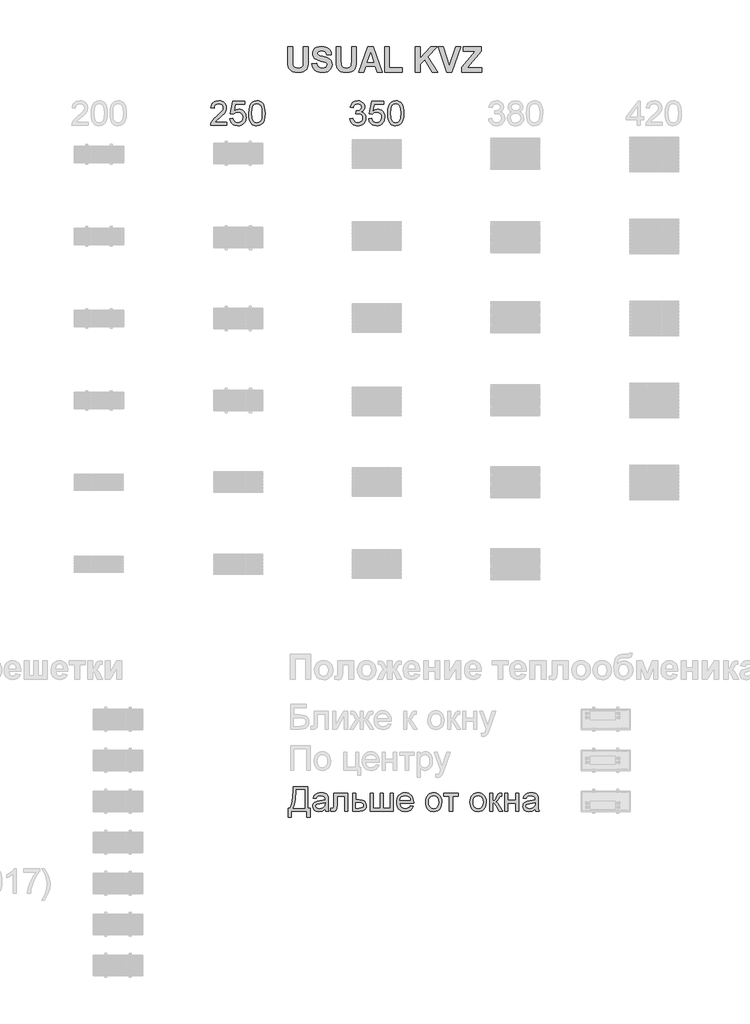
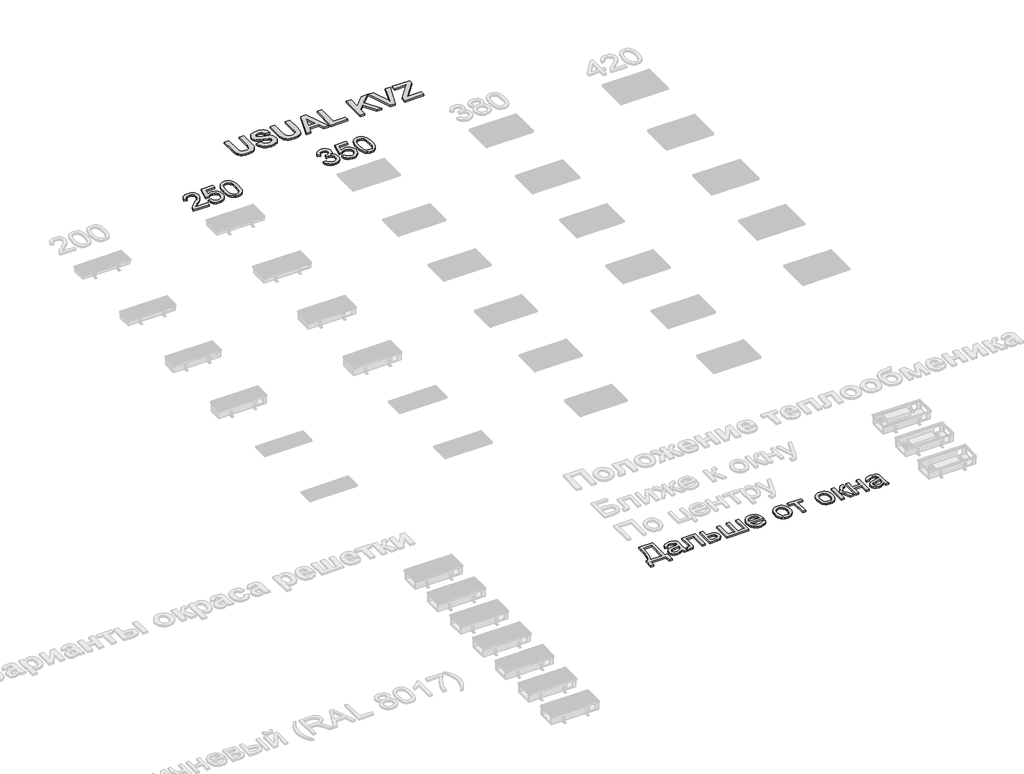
# One storey, part 10 of 12: 4 proxies.
"""IFC4 building model written with IfcOpenShell, lengths in millimetres."""

from ifc_helpers import new_model, si_unit, origin, origin_with_axes, place, context, project, spatial, polyline, outline, extrude, element, save

model = new_model("IFC4")

# Units and contexts
model_context = context("Model", 3, world=origin())
ifc_project = project(units=[si_unit("LENGTHUNIT", "METRE", prefix="MILLI")], contexts=[model_context])

# Site, building, storey
site = spatial("IfcSite", under=ifc_project)
building = spatial("IfcBuilding", under=site)
storey = spatial("IfcBuildingStorey", under=building, Name="Уровень 1", Elevation=0.0)

# Proxies
placement = place(None, origin())
element("IfcBuildingElementProxy", 1, Name="300", ObjectType="300", at=placement, inside=storey, context=model_context, shape_type="SweptSolid", body=[
    extrude(outline(polyline([(14630.1009653, -13613.7438159), (14809.0387678, -13613.7438159), (14809.0387678, -13877.4416301), (14837.292105, -13877.4416301), (14837.292105, -13985.7460895), (14799.6209887, -13985.7460895), (14799.6209887, -13915.1127464), (14606.5565176, -13915.1127464), (14606.5565176, -13985.7460895), (14568.8854013, -13985.7460895), (14568.8854013, -13877.4416301), (14592.429849, -13877.4416301), (14608.9109624, -13843.2699912), (14620.6831862, -13795.2016101), (14627.7465205, -13733.2364865), (14630.1009653, -13657.3746206), (14630.1009653, -13613.7438159)]), holes=[polyline([(14771.3676514, -13651.4149322), (14667.7720816, -13651.4149322), (14667.7720816, -13666.5716704), (14660.1201361, -13769.7993583), (14648.7893707, -13829.4514238), (14630.1009653, -13877.4416301), (14771.3676514, -13877.4416301), (14771.3676514, -13651.4149322)])]), origin_with_axes(), (0.0, 0.0, 1.0), 20.0),
    extrude(outline(polyline([(15020.938797, -13886.8594092), (15002.9401704, -13902.2920588), (14984.4081149, -13912.3904196), (14964.9195662, -13917.9638318), (14944.05146, -13919.8216359), (14912.5699582, -13915.3518697), (14889.3474073, -13901.942571), (14875.0276006, -13881.5803025), (14870.2543317, -13856.2516272), (14872.0569535, -13840.6350365), (14877.4648189, -13826.4531855), (14885.8065431, -13814.3130797), (14896.4107416, -13804.8217242), (14922.7878807, -13792.4608892), (14955.3822254, -13786.7955065), (14993.8994703, -13780.8358181), (15020.7180678, -13773.8460602), (15020.938797, -13765.4583507), (15018.3452289, -13748.6461436), (15010.5645247, -13737.6464719), (14993.1637063, -13729.4794916), (14968.9202829, -13726.7571648), (14946.4794812, -13728.5689837), (14930.8077082, -13734.0044402), (14920.1207362, -13744.0568157), (14912.6343376, -13759.7193916), (14874.9632213, -13755.0105021), (14881.5023238, -13734.4091103), (14891.2603937, -13718.2223026), (14905.147939, -13705.8430734), (14924.0754676, -13696.6644176), (14947.2244422, -13690.9806408), (14973.7763252, -13689.0860485), (14999.2429563, -13690.7599116), (15019.4304808, -13695.7815009), (15034.6515983, -13703.3322788), (15045.2190087, -13712.593708), (15052.2271607, -13724.0440351), (15056.7705033, -13738.1615067), (15058.6099133, -13771.1237335), (15058.6099133, -13817.9918997), (15060.5228997, -13883.4381066), (15068.0276924, -13915.1127464), (15030.3565761, -13915.1127464), (15020.938797, -13886.8594092)]), holes=[polyline([(15020.938797, -13811.5171765), (14960.1646914, -13823.0686712), (14927.7542876, -13829.1755123), (14913.075796, -13839.1083262), (14907.9254481, -13853.6028768), (14910.7305483, -13864.8048835), (14919.1458489, -13873.9835393), (14932.987409, -13880.1087745), (14952.0712875, -13882.1505196), (14972.3047972, -13879.8972424), (14990.1838622, -13873.1374107), (15004.6784128, -13863.1770057), (15014.7583795, -13851.3220084), (15019.2281457, -13839.1083262), (15020.7180678, -13822.1857544), (15020.938797, -13811.5171765)])]), origin_with_axes(), (0.0, 0.0, 1.0), 20.0),
    extrude(outline(polyline([(15129.2432564, -13693.7949381), (15298.7632797, -13693.7949381), (15298.7632797, -13914.8920172), (15261.0921634, -13914.8920172), (15261.0921634, -13731.4660544), (15166.9143727, -13731.4660544), (15166.9143727, -13837.048187), (15164.3759869, -13885.7557632), (15159.6211121, -13896.783026), (15150.4332593, -13906.3203667), (15136.4905317, -13912.9146515), (15117.4710325, -13915.1127464), (15086.8632505, -13913.19976), (15086.8632505, -13877.4416301), (15103.7122459, -13877.4416301), (15120.7451823, -13875.1239735), (15127.5509992, -13867.7663336), (15129.2432564, -13834.9144714), (15129.2432564, -13693.7949381)])), origin_with_axes(), (0.0, 0.0, 1.0), 20.0),
    extrude(outline(polyline([(15355.2699542, -13693.7949381), (15392.9410705, -13693.7949381), (15392.9410705, -13773.8460602), (15436.3511459, -13773.8460602), (15473.985474, -13778.5641468), (15489.1330152, -13784.4617551), (15501.8341411, -13792.7184066), (15511.8773195, -13803.0489929), (15519.0510184, -13815.1684053), (15524.7899776, -13844.7737089), (15519.9063441, -13871.7302621), (15505.2554436, -13894.4745665), (15494.0235465, -13903.5037702), (15479.8623889, -13909.9532014), (15442.7522926, -13915.1127464), (15355.2699542, -13915.1127464), (15355.2699542, -13693.7949381)]), holes=[polyline([(15392.9410705, -13877.4416301), (15428.1105892, -13877.4416301), (15455.3982362, -13875.4642644), (15473.5440156, -13869.5321672), (15483.7251499, -13859.4062153), (15487.1188613, -13844.8472853), (15484.6080666, -13832.5416326), (15477.0756828, -13821.6707196), (15460.9348603, -13814.0555623), (15432.5987496, -13811.5171765), (15392.9410705, -13811.5171765), (15392.9410705, -13877.4416301)])]), origin_with_axes(), (0.0, 0.0, 1.0), 20.0),
    extrude(outline(polyline([(15571.878873, -13693.7949381), (15609.5499893, -13693.7949381), (15609.5499893, -13877.4416301), (15694.3100009, -13877.4416301), (15694.3100009, -13693.7949381), (15731.9811173, -13693.7949381), (15731.9811173, -13877.4416301), (15816.7411289, -13877.4416301), (15816.7411289, -13693.7949381), (15854.4122452, -13693.7949381), (15854.4122452, -13915.1127464), (15571.878873, -13915.1127464), (15571.878873, -13693.7949381)])), origin_with_axes(), (0.0, 0.0, 1.0), 20.0),
    extrude(outline(polyline([(16061.1619265, -13849.1882928), (16098.0972789, -13853.8971824), (16084.7891477, -13881.7274553), (16063.5531595, -13902.5311821), (16034.8675609, -13915.4990225), (15999.2105985, -13919.8216359), (15975.8362963, -13917.9569341), (15955.0095768, -13912.3628285), (15936.7304402, -13903.0393192), (15920.9988864, -13889.9864061), (15908.3483443, -13873.5673728), (15899.3122428, -13854.1455027), (15893.8905819, -13831.7207959), (15892.0833616, -13806.2932522), (15893.908976, -13780.0034851), (15899.3858192, -13756.831518), (15908.5138912, -13736.7773507), (15921.293192, -13719.8409833), (15936.9833591, -13706.3856994), (15954.8440299, -13696.7747822), (15974.8752046, -13691.008232), (15997.076883, -13689.0860485), (16018.5634908, -13691.0036334), (16037.9945579, -13696.7563881), (16055.3700844, -13706.3443126), (16070.6900702, -13719.7674069), (16083.1957588, -13736.6669861), (16092.1283935, -13756.6843652), (16097.4879743, -13779.8195441), (16099.2745012, -13806.072523), (16099.053772, -13816.2260661), (15929.7544779, -13816.2260661), (15936.2751862, -13844.424221), (15951.4227274, -13865.1543714), (15973.2841149, -13877.9014826), (15999.9463625, -13882.1505196), (16019.9959313, -13880.1823509), (16036.8817149, -13874.2778449), (16050.6037133, -13864.0691195), (16061.1619265, -13849.1882928)]), holes=[polyline([(15929.7544779, -13778.5549498), (16061.6033849, -13778.5549498), (16056.5082193, -13758.6525338), (16046.5202231, -13744.4155006), (16024.557668, -13731.1717488), (15996.9297302, -13726.7571648), (15971.5366755, -13730.279635), (15950.5398106, -13740.8470453), (15935.9440924, -13757.3189616), (15929.7544779, -13778.5549498)])]), origin_with_axes(), (0.0, 0.0, 1.0), 20.0),
    extrude(outline(polyline([(16245.2500769, -13804.4538422), (16247.2872235, -13775.7912363), (16253.3986631, -13751.0925588), (16263.5843959, -13730.3578099), (16277.8444217, -13713.5869894), (16292.2010166, -13702.8678278), (16308.0475335, -13695.2112838), (16325.3839725, -13690.6173573), (16344.2103336, -13689.0860485), (16364.9933671, -13690.9507504), (16383.7852393, -13696.544856), (16400.5859501, -13705.8683653), (16415.3954997, -13718.9212784), (16427.4827225, -13735.2621367), (16436.1164531, -13754.449482), (16441.2966914, -13776.4833143), (16443.0234375, -13801.3636335), (16439.970017, -13839.4210259), (16430.8097553, -13868.391733), (16415.8093669, -13890.0875737), (16395.2355664, -13906.3203667), (16370.7990048, -13916.4463186), (16344.2103336, -13919.8216359), (16323.1237975, -13917.9638318), (16304.1571814, -13912.3904196), (16287.3104853, -13903.1013992), (16272.5837092, -13890.0967707), (16260.6252451, -13873.5972632), (16252.083485, -13853.823606), (16246.9584289, -13830.775799), (16245.2500769, -13804.4538422)]), holes=[polyline([(16282.9211932, -13804.3802658), (16287.2805949, -13838.4737297), (16300.3587998, -13862.7631385), (16320.0404865, -13877.3036743), (16344.2103336, -13882.1505196), (16368.2698161, -13877.2760832), (16387.9147147, -13862.6527739), (16400.9929196, -13838.0414684), (16405.3523212, -13803.2030434), (16400.9653284, -13770.1028609), (16387.8043501, -13746.144546), (16368.1318604, -13731.6040101), (16344.2103336, -13726.7571648), (16320.0404865, -13731.585616), (16300.3587998, -13746.0709696), (16287.2805949, -13770.305196), (16282.9211932, -13804.3802658)])]), origin_with_axes(), (0.0, 0.0, 1.0), 20.0),
    extrude(outline(polyline([(16466.5678852, -13693.7949381), (16645.5056877, -13693.7949381), (16645.5056877, -13731.4660544), (16574.8723446, -13731.4660544), (16574.8723446, -13915.1127464), (16537.2012283, -13915.1127464), (16537.2012283, -13731.4660544), (16466.5678852, -13731.4660544), (16466.5678852, -13693.7949381)])), origin_with_axes(), (0.0, 0.0, 1.0), 20.0),
    extrude(outline(polyline([(16786.7723738, -13804.4538422), (16788.8095204, -13775.7912363), (16794.92096, -13751.0925588), (16805.1066928, -13730.3578099), (16819.3667186, -13713.5869894), (16833.7233135, -13702.8678278), (16849.5698304, -13695.2112838), (16866.9062694, -13690.6173573), (16885.7326305, -13689.0860485), (16906.515664, -13690.9507504), (16925.3075362, -13696.544856), (16942.108247, -13705.8683653), (16956.9177966, -13718.9212784), (16969.0050194, -13735.2621367), (16977.63875, -13754.449482), (16982.8189883, -13776.4833143), (16984.5457344, -13801.3636335), (16981.4923139, -13839.4210259), (16972.3320522, -13868.391733), (16957.3316638, -13890.0875737), (16936.7578633, -13906.3203667), (16912.3213017, -13916.4463186), (16885.7326305, -13919.8216359), (16864.6460944, -13917.9638318), (16845.6794783, -13912.3904196), (16828.8327822, -13903.1013992), (16814.1060061, -13890.0967707), (16802.147542, -13873.5972632), (16793.6057819, -13853.823606), (16788.4807258, -13830.775799), (16786.7723738, -13804.4538422)]), holes=[polyline([(16824.4434901, -13804.3802658), (16828.8028918, -13838.4737297), (16841.8810967, -13862.7631385), (16861.5627834, -13877.3036743), (16885.7326305, -13882.1505196), (16909.792113, -13877.2760832), (16929.4370116, -13862.6527739), (16942.5152165, -13838.0414684), (16946.8746181, -13803.2030434), (16942.4876253, -13770.1028609), (16929.326647, -13746.144546), (16909.6541573, -13731.6040101), (16885.7326305, -13726.7571648), (16861.5627834, -13731.585616), (16841.8810967, -13746.0709696), (16828.8028918, -13770.305196), (16824.4434901, -13804.3802658)])]), origin_with_axes(), (0.0, 0.0, 1.0), 20.0),
    extrude(outline(polyline([(17026.9257403, -13693.7949381), (17064.5968566, -13693.7949381), (17064.5968566, -13787.9727288), (17079.9191417, -13786.2804717), (17089.8335614, -13781.2037001), (17098.607547, -13767.9599483), (17110.5085296, -13741.7667503), (17127.6886188, -13707.7376657), (17142.845357, -13696.6644176), (17170.3997184, -13693.7949381), (17177.6102055, -13693.7949381), (17177.6102055, -13731.6867836), (17167.4566624, -13731.4660544), (17149.0625627, -13735.4391799), (17136.1131164, -13760.2344264), (17120.91959, -13787.0530239), (17099.6192225, -13800.1864111), (17111.5569933, -13805.4885103), (17123.3843994, -13814.8465086), (17146.7081179, -13845.7302021), (17187.0279846, -13915.1127464), (17144.2065203, -13915.1127464), (17104.6959941, -13847.2017301), (17084.8303663, -13818.4701462), (17075.5413459, -13813.255419), (17064.5968566, -13811.5171765), (17064.5968566, -13915.1127464), (17026.9257403, -13915.1127464), (17026.9257403, -13693.7949381)])), origin_with_axes(), (0.0, 0.0, 1.0), 20.0),
    extrude(outline(polyline([(17210.5724323, -13693.7949381), (17248.2435486, -13693.7949381), (17248.2435486, -13778.5549498), (17347.1302289, -13778.5549498), (17347.1302289, -13693.7949381), (17384.8013452, -13693.7949381), (17384.8013452, -13915.1127464), (17347.1302289, -13915.1127464), (17347.1302289, -13816.2260661), (17248.2435486, -13816.2260661), (17248.2435486, -13915.1127464), (17210.5724323, -13915.1127464), (17210.5724323, -13693.7949381)])), origin_with_axes(), (0.0, 0.0, 1.0), 20.0),
    extrude(outline(polyline([(17582.5747058, -13886.8594092), (17564.5760792, -13902.2920588), (17546.0440237, -13912.3904196), (17526.555475, -13917.9638318), (17505.6873688, -13919.8216359), (17474.2058671, -13915.3518697), (17450.9833161, -13901.942571), (17436.6635095, -13881.5803025), (17431.8902406, -13856.2516272), (17433.6928623, -13840.6350365), (17439.1007277, -13826.4531855), (17447.4424519, -13814.3130797), (17458.0466504, -13804.8217242), (17484.4237895, -13792.4608892), (17517.0181342, -13786.7955065), (17555.5353791, -13780.8358181), (17582.3539766, -13773.8460602), (17582.5747058, -13765.4583507), (17579.9811377, -13748.6461436), (17572.2004335, -13737.6464719), (17554.7996152, -13729.4794916), (17530.5561917, -13726.7571648), (17508.11539, -13728.5689837), (17492.443617, -13734.0044402), (17481.756645, -13744.0568157), (17474.2702464, -13759.7193916), (17436.5991301, -13755.0105021), (17443.1382326, -13734.4091103), (17452.8963025, -13718.2223026), (17466.7838478, -13705.8430734), (17485.7113765, -13696.6644176), (17508.860351, -13690.9806408), (17535.412234, -13689.0860485), (17560.8788651, -13690.7599116), (17581.0663896, -13695.7815009), (17596.2875072, -13703.3322788), (17606.8549175, -13712.593708), (17613.8630695, -13724.0440351), (17618.4064121, -13738.1615067), (17620.2458221, -13771.1237335), (17620.2458221, -13817.9918997), (17622.1588085, -13883.4381066), (17629.6636012, -13915.1127464), (17591.9924849, -13915.1127464), (17582.5747058, -13886.8594092)]), holes=[polyline([(17582.5747058, -13811.5171765), (17521.8006002, -13823.0686712), (17489.3901964, -13829.1755123), (17474.7117048, -13839.1083262), (17469.5613569, -13853.6028768), (17472.3664571, -13864.8048835), (17480.7817577, -13873.9835393), (17494.6233178, -13880.1087745), (17513.7071963, -13882.1505196), (17533.940706, -13879.8972424), (17551.819771, -13873.1374107), (17566.3143216, -13863.1770057), (17576.3942883, -13851.3220084), (17580.8640545, -13839.1083262), (17582.3539766, -13822.1857544), (17582.5747058, -13811.5171765)])]), origin_with_axes(), (0.0, 0.0, 1.0), 20.0),
])
element("IfcBuildingElementProxy", 2, Name="300", ObjectType="300", at=placement, inside=storey, context=model_context, shape_type="SweptSolid", body=[
    extrude(outline(polyline([(13822.5232322, -5516.3533714), (13822.5232322, -5554.0244877), (13624.7498716, -5554.0244877), (13628.7965735, -5528.0520189), (13638.0855939, -5507.7541298), (13651.6788336, -5488.063246), (13671.3421262, -5467.4526572), (13698.8413054, -5444.3956531), (13739.4922659, -5408.2880353), (13763.8828421, -5381.6349848), (13776.0781303, -5360.0035235), (13780.1432263, -5338.9606733), (13776.3080565, -5320.097524), (13764.8025471, -5304.416554), (13747.1166202, -5293.8491437), (13724.7401978, -5290.3266736), (13701.2417354, -5293.7663702), (13682.9855914, -5304.0854602), (13671.2041705, -5320.4746031), (13667.1298774, -5342.1244585), (13629.4587611, -5337.415569), (13638.5914316, -5300.9768573), (13647.1377902, -5286.44092), (13658.3374977, -5274.360595), (13671.9330367, -5264.864641), (13687.6668898, -5258.0818167), (13725.5495382, -5252.6555573), (13745.739362, -5254.1638734), (13763.7080982, -5258.688822), (13779.4557468, -5266.2304029), (13792.9823079, -5276.7886161), (13803.8463231, -5289.5817125), (13811.606334, -5303.8279428), (13816.2623405, -5319.5273069), (13817.8143426, -5336.679805), (13816.1404795, -5354.6968257), (13811.1188903, -5372.4011467), (13802.206949, -5390.4089704), (13788.8620296, -5409.336499), (13767.5892532, -5431.9336506), (13734.8937409, -5460.9503429), (13691.5572419, -5497.1867195), (13674.5610937, -5516.3533714), (13822.5232322, -5516.3533714)])), origin_with_axes(), (0.0, 0.0, 1.0), 20.0),
    extrude(outline(polyline([(13860.1943485, -5473.9733656), (13897.8654648, -5469.264476), (13904.7816463, -5491.8800217), (13916.8481757, -5508.0760265), (13934.0098708, -5517.8157023), (13956.2115492, -5521.0622609), (13983.2140877, -5516.5465095), (14003.4475974, -5502.999255), (14016.0843439, -5481.983996), (14020.2965928, -5455.064231), (14016.3510584, -5429.7171615), (14004.5144552, -5410.3297804), (13984.6948127, -5398.0241277), (13956.8001604, -5393.9222434), (13938.5256223, -5395.5593183), (13923.727569, -5400.4705429), (13902.5743543, -5417.4666911), (13864.903238, -5412.7578016), (13897.8654648, -5257.3644468), (14043.8410405, -5257.3644468), (14043.8410405, -5295.0355631), (13928.326094, -5295.0355631), (13912.2128626, -5378.0297412), (13939.1234305, -5361.6957806), (13967.3215855, -5356.2511271), (13985.6674007, -5357.9387858), (14002.5186954, -5363.0017617), (14017.8754694, -5371.440055), (14031.7377228, -5383.2536656), (14043.2133418, -5397.720625), (14051.4102125, -5414.1189649), (14056.3283349, -5432.4486854), (14057.9677091, -5452.7097862), (14052.0632031, -5490.3809025), (14044.6825705, -5507.1747156), (14034.349685, -5522.6073653), (14018.6963061, -5538.4124955), (14000.430965, -5549.7018743), (13979.5536618, -5556.4755015), (13956.0643964, -5558.7333772), (13919.0646647, -5552.9300388), (13903.385994, -5545.6758657), (13889.5881199, -5535.5200234), (13878.1079024, -5522.9683495), (13869.3822013, -5508.526682), (13860.1943485, -5473.9733656)])), origin_with_axes(), (0.0, 0.0, 1.0), 20.0),
    extrude(outline(polyline([(14090.9299358, -5405.7680437), (14093.6982479, -5357.529517), (14102.0031839, -5319.0582574), (14115.7619705, -5289.7656535), (14134.8918343, -5269.0630942), (14159.5307309, -5256.7574415), (14189.8166161, -5252.6555573), (14213.02997, -5255.0835784), (14233.8153028, -5262.3676419), (14251.197727, -5274.2226392), (14264.2023556, -5290.3634618), (14274.0248048, -5310.6521538), (14281.8606913, -5334.9507596), (14286.9926452, -5365.8068619), (14288.7032965, -5405.7680437), (14285.9625756, -5453.7306588), (14277.740413, -5492.1099479), (14264.0643998, -5521.4301429), (14244.9621272, -5542.2154757), (14220.2680483, -5554.6039019), (14189.8166161, -5558.7333772), (14169.0680716, -5556.9399525), (14150.6739719, -5551.5596783), (14134.6343169, -5542.5925547), (14120.9491066, -5530.0385816), (14107.8157194, -5507.344861), (14098.4347285, -5479.0685312), (14092.806134, -5445.2095921), (14090.9299358, -5405.7680437)]), holes=[polyline([(14128.6010521, -5405.6944673), (14133.0156361, -5464.9510596), (14138.533866, -5485.2190583), (14146.2593879, -5499.2468586), (14165.9778629, -5515.6084104), (14189.8166161, -5521.0622609), (14213.6553694, -5515.5900163), (14233.3738444, -5499.1732822), (14241.0993663, -5485.1224893), (14246.6175962, -5464.8590891), (14251.0321801, -5405.6944673), (14246.764749, -5347.7714471), (14241.4304601, -5327.5701271), (14233.9624556, -5313.2089337), (14214.2807688, -5296.0472386), (14189.3751578, -5290.3266736), (14165.7939219, -5295.3666569), (14146.8479991, -5310.4866069), (14138.8649598, -5326.1215917), (14133.1627889, -5347.20123), (14128.6010521, -5405.6944673)])]), origin_with_axes(), (0.0, 0.0, 1.0), 20.0),
])
element("IfcBuildingElementProxy", 3, Name="300", ObjectType="300", at=placement, inside=storey, context=model_context, shape_type="SweptSolid", body=[
    extrude(outline(polyline([(15321.6655232, -5473.9733656), (15359.3366395, -5469.264476), (15367.7703343, -5492.9376824), (15380.1219723, -5508.9221551), (15396.9985588, -5518.0272345), (15419.0070991, -5521.0622609), (15444.8324152, -5516.8868003), (15464.7716193, -5504.3604184), (15477.5187305, -5485.672013), (15481.7677675, -5463.0104821), (15477.5555187, -5441.4985824), (15464.9187721, -5424.0517788), (15445.7889084, -5412.4910871), (15422.0973079, -5408.6375232), (15395.6833806, -5412.7578016), (15399.8772354, -5375.0866853), (15405.9105001, -5375.5281437), (15428.4800605, -5372.824211), (15448.658388, -5364.712413), (15462.8954212, -5350.9904146), (15467.6410989, -5331.4558806), (15464.2014022, -5315.1862994), (15453.8823123, -5301.9885328), (15438.1369629, -5293.2421384), (15418.4184879, -5290.3266736), (15398.6632248, -5293.2697295), (15382.5132052, -5302.0988974), (15370.7225873, -5316.8141772), (15364.0455291, -5337.415569), (15326.3744128, -5332.7066794), (15337.4660549, -5298.87993), (15357.202924, -5273.624831), (15384.2054624, -5257.8978757), (15417.0941128, -5252.6555573), (15440.7765162, -5255.2399283), (15462.5275392, -5262.9930413), (15480.8664566, -5275.2251177), (15494.3125436, -5291.2463786), (15502.5622973, -5309.7048577), (15505.3122152, -5329.2485887), (15502.700253, -5347.4587474), (15494.8643665, -5363.976649), (15481.9149203, -5378.0481353), (15463.962279, -5388.9190483), (15487.5435148, -5398.447192), (15505.0179096, -5414.6707879), (15515.8336403, -5436.7069194), (15519.4388838, -5463.6726697), (15517.636262, -5482.7841393), (15512.2283967, -5500.3872928), (15503.2152878, -5516.4821301), (15490.5969354, -5531.0686512), (15475.2240665, -5543.1719689), (15457.9474083, -5551.8171957), (15438.7669608, -5557.0043319), (15417.682724, -5558.7333772), (15398.6264366, -5557.2572507), (15381.2624064, -5552.8288712), (15365.5906334, -5545.4482387), (15351.6111176, -5535.1153532), (15339.8894776, -5522.4372199), (15330.9913318, -5508.0208442), (15324.9166804, -5491.8662261), (15321.6655232, -5473.9733656)])), origin_with_axes(), (0.0, 0.0, 1.0), 20.0),
    extrude(outline(polyline([(15552.4011106, -5473.9733656), (15590.0722269, -5469.264476), (15596.9884084, -5491.8800217), (15609.0549379, -5508.0760265), (15626.2166329, -5517.8157023), (15648.4183113, -5521.0622609), (15675.4208498, -5516.5465095), (15695.6543595, -5502.999255), (15708.291106, -5481.983996), (15712.5033549, -5455.064231), (15708.5578205, -5429.7171615), (15696.7212173, -5410.3297804), (15676.9015748, -5398.0241277), (15649.0069225, -5393.9222434), (15630.7323844, -5395.5593183), (15615.9343312, -5400.4705429), (15594.7811164, -5417.4666911), (15557.1100001, -5412.7578016), (15590.0722269, -5257.3644468), (15736.0478026, -5257.3644468), (15736.0478026, -5295.0355631), (15620.5328561, -5295.0355631), (15604.4196247, -5378.0297412), (15631.3301927, -5361.6957806), (15659.5283476, -5356.2511271), (15677.8741628, -5357.9387858), (15694.7254575, -5363.0017617), (15710.0822315, -5371.440055), (15723.9444849, -5383.2536656), (15735.4201039, -5397.720625), (15743.6169746, -5414.1189649), (15748.5350971, -5432.4486854), (15750.1744712, -5452.7097862), (15744.2699652, -5490.3809025), (15736.8893326, -5507.1747156), (15726.5564471, -5522.6073653), (15710.9030682, -5538.4124955), (15692.6377272, -5549.7018743), (15671.7604239, -5556.4755015), (15648.2711585, -5558.7333772), (15611.2714269, -5552.9300388), (15595.5927561, -5545.6758657), (15581.794882, -5535.5200234), (15570.3146645, -5522.9683495), (15561.5889634, -5508.526682), (15552.4011106, -5473.9733656)])), origin_with_axes(), (0.0, 0.0, 1.0), 20.0),
    extrude(outline(polyline([(15783.136698, -5405.7680437), (15785.90501, -5357.529517), (15794.209946, -5319.0582574), (15807.9687326, -5289.7656535), (15827.0985964, -5269.0630942), (15851.737493, -5256.7574415), (15882.0233783, -5252.6555573), (15905.2367322, -5255.0835784), (15926.0220649, -5262.3676419), (15943.4044892, -5274.2226392), (15956.4091177, -5290.3634618), (15966.231567, -5310.6521538), (15974.0674535, -5334.9507596), (15979.1994073, -5365.8068619), (15980.9100586, -5405.7680437), (15978.1693377, -5453.7306588), (15969.9471751, -5492.1099479), (15956.2711619, -5521.4301429), (15937.1688893, -5542.2154757), (15912.4748104, -5554.6039019), (15882.0233783, -5558.7333772), (15861.2748337, -5556.9399525), (15842.880734, -5551.5596783), (15826.841079, -5542.5925547), (15813.1558688, -5530.0385816), (15800.0224815, -5507.344861), (15790.6414907, -5479.0685312), (15785.0128961, -5445.2095921), (15783.136698, -5405.7680437)]), holes=[polyline([(15820.8078143, -5405.6944673), (15825.2223982, -5464.9510596), (15830.7406281, -5485.2190583), (15838.46615, -5499.2468586), (15858.184625, -5515.6084104), (15882.0233783, -5521.0622609), (15905.8621316, -5515.5900163), (15925.5806065, -5499.1732822), (15933.3061284, -5485.1224893), (15938.8243583, -5464.8590891), (15943.2389423, -5405.6944673), (15938.9715111, -5347.7714471), (15933.6372222, -5327.5701271), (15926.1692177, -5313.2089337), (15906.487531, -5296.0472386), (15881.5819199, -5290.3266736), (15858.000684, -5295.3666569), (15839.0547612, -5310.4866069), (15831.0717219, -5326.1215917), (15825.369551, -5347.20123), (15820.8078143, -5405.6944673)])]), origin_with_axes(), (0.0, 0.0, 1.0), 20.0),
])
element("IfcBuildingElementProxy", 4, Name="300_", ObjectType="300_", at=placement, inside=storey, context=model_context, shape_type="SweptSolid", body=[
    extrude(outline(polyline([(14566.7245973, -4596.9761103), (14625.0251344, -4596.9761103), (14625.0251344, -4762.0850534), (14627.5302356, -4813.0980234), (14634.8367808, -4829.9410334), (14648.1024304, -4843.1212818), (14667.3271843, -4851.6329325), (14692.5110426, -4854.4701494), (14717.6664339, -4851.7942458), (14735.7430165, -4843.7665351), (14747.3860437, -4831.8388373), (14753.2407688, -4817.4629725), (14756.201343, -4765.6529248), (14756.201343, -4596.9761103), (14814.5018801, -4596.9761103), (14814.5018801, -4757.5303239), (14813.2303515, -4804.5389276), (14809.4157655, -4835.3402856), (14802.1851325, -4856.2825521), (14790.6654626, -4873.7138814), (14774.6954424, -4887.7860976), (14754.1137586, -4898.6510252), (14727.7247948, -4905.5969876), (14694.3329344, -4907.9123084), (14655.2191951, -4905.3882292), (14626.8470262, -4897.8159914), (14606.2558534, -4886.2014313), (14590.4851026, -4871.5503849), (14579.4019276, -4854.9825564), (14572.873482, -4837.6176504), (14568.2618185, -4805.0892908), (14566.7245973, -4760.0354251), (14566.7245973, -4596.9761103)])), origin_with_axes(), (0.0, 0.0, 1.0), 20.0),
    extrude(outline(polyline([(14858.227283, -4801.0279903), (14916.5278201, -4796.1696122), (14925.0299818, -4822.2454384), (14939.3014674, -4840.350488), (14959.4371673, -4850.940234), (14985.5319715, -4854.4701494), (15012.6136338, -4851.3482619), (15032.0661242, -4841.9825994), (15043.7945526, -4828.4417683), (15047.7040287, -4812.7943748), (15046.0814063, -4802.8783492), (15041.2135392, -4794.5375008), (15032.2843716, -4787.4871592), (15018.4778479, -4781.4426536), (14967.9203509, -4768.4616747), (14924.7642892, -4755.0442008), (14896.7147469, -4738.6281967), (14884.1275623, -4725.3388246), (14875.1367161, -4710.6735446), (14869.7422084, -4694.6323568), (14867.9440392, -4677.2152611), (14871.246218, -4654.6693502), (14881.1527546, -4633.6416825), (14897.2840881, -4615.7833474), (14919.2606578, -4602.7454343), (14946.7218808, -4594.7746578), (14979.3071746, -4592.1177322), (15006.2631073, -4593.7735662), (15029.6654022, -4598.741068), (15049.5140592, -4607.0202377), (15065.8090783, -4618.6110753), (15078.6026491, -4632.9632176), (15087.9469613, -4649.5263015), (15093.8420148, -4668.300327), (15096.2878096, -4689.2852941), (15037.9872725, -4689.2852941), (15031.5442281, -4669.2539735), (15020.413608, -4655.7700765), (15003.570598, -4648.1124376), (14979.990384, -4645.5598913), (14955.1671084, -4648.2737509), (14936.4168054, -4656.4153298), (14928.7876336, -4664.5758868), (14926.2445763, -4675.0897206), (14928.5598971, -4685.0152353), (14935.5058595, -4693.3845507), (14955.6700264, -4703.186708), (14992.6297582, -4713.3114921), (15032.0756132, -4723.8443039), (15059.6981496, -4734.8705449), (15079.0557498, -4748.2215956), (15093.7067963, -4765.728837), (15102.9301234, -4787.6105164), (15106.0045658, -4814.0848815), (15102.3702713, -4839.36363), (15091.4673876, -4862.972311), (15073.9127011, -4882.8233403), (15050.3229981, -4896.8291334), (15020.442075, -4905.1415147), (14984.0137283, -4907.9123084), (14956.7707527, -4906.2066571), (14932.8868901, -4901.0897032), (14912.3621405, -4892.5614468), (14895.1965038, -4880.6218877), (14881.2713674, -4865.4133614), (14870.4681184, -4847.078203), (14862.7867569, -4825.6164127), (14858.227283, -4801.0279903)])), origin_with_axes(), (0.0, 0.0, 1.0), 20.0),
    extrude(outline(polyline([(15154.5883468, -4596.9761103), (15212.8888839, -4596.9761103), (15212.8888839, -4762.0850534), (15215.3939851, -4813.0980234), (15222.7005303, -4829.9410334), (15235.9661799, -4843.1212818), (15255.1909338, -4851.6329325), (15280.3747921, -4854.4701494), (15305.5301834, -4851.7942458), (15323.606766, -4843.7665351), (15335.2497932, -4831.8388373), (15341.1045183, -4817.4629725), (15344.0650925, -4765.6529248), (15344.0650925, -4596.9761103), (15402.3656296, -4596.9761103), (15402.3656296, -4757.5303239), (15401.094101, -4804.5389276), (15397.279515, -4835.3402856), (15390.048882, -4856.2825521), (15378.5292121, -4873.7138814), (15362.5591919, -4887.7860976), (15341.9775081, -4898.6510252), (15315.5885443, -4905.5969876), (15282.1966839, -4907.9123084), (15243.0829446, -4905.3882292), (15214.7107757, -4897.8159914), (15194.1196029, -4886.2014313), (15178.3488521, -4871.5503849), (15167.2656771, -4854.9825564), (15160.7372315, -4837.6176504), (15156.125568, -4805.0892908), (15154.5883468, -4760.0354251), (15154.5883468, -4596.9761103)])), origin_with_axes(), (0.0, 0.0, 1.0), 20.0),
    extrude(outline(polyline([(15718.1602058, -4903.0539303), (15656.8990945, -4903.0539303), (15632.9108527, -4835.036637), (15517.2966364, -4835.036637), (15493.6120432, -4903.0539303), (15431.5158982, -4903.0539303), (15543.2585944, -4596.9761103), (15605.3547394, -4596.9761103), (15718.1602058, -4903.0539303)]), holes=[polyline([(15614.2364619, -4781.5944779), (15574.838052, -4669.8517818), (15535.9710272, -4781.5944779), (15614.2364619, -4781.5944779)])]), origin_with_axes(), (0.0, 0.0, 1.0), 20.0),
    extrude(outline(polyline([(15747.3104744, -4903.0539303), (15747.3104744, -4596.9761103), (15805.6110115, -4596.9761103), (15805.6110115, -4849.6117713), (15961.0791105, -4849.6117713), (15961.0791105, -4903.0539303), (15747.3104744, -4903.0539303)])), origin_with_axes(), (0.0, 0.0, 1.0), 20.0),
    extrude(outline(polyline([(16121.4055877, -4903.0539303), (16121.4055877, -4596.9761103), (16179.7061248, -4596.9761103), (16179.7061248, -4736.5026563), (16311.0341577, -4596.9761103), (16391.045572, -4596.9761103), (16275.2036192, -4713.8808332), (16395.90395, -4903.0539303), (16327.7348324, -4903.0539303), (16237.3234525, -4752.2164729), (16179.7061248, -4810.4410979), (16179.7061248, -4903.0539303), (16121.4055877, -4903.0539303)])), origin_with_axes(), (0.0, 0.0, 1.0), 20.0),
    extrude(outline(polyline([(16501.4977615, -4903.0539303), (16398.3331391, -4596.9761103), (16459.8219869, -4596.9761103), (16536.7969148, -4825.3198808), (16613.9995792, -4596.9761103), (16675.2606905, -4596.9761103), (16566.6303928, -4903.0539303), (16501.4977615, -4903.0539303)])), origin_with_axes(), (0.0, 0.0, 1.0), 20.0),
    extrude(outline(polyline([(16684.9774467, -4903.0539303), (16684.9774467, -4844.7533932), (16849.0236196, -4650.4182694), (16704.4109591, -4650.4182694), (16704.4109591, -4596.9761103), (16923.0379734, -4596.9761103), (16923.0379734, -4650.4182694), (16754.892544, -4849.6117713), (16927.8963515, -4849.6117713), (16927.8963515, -4903.0539303), (16684.9774467, -4903.0539303)])), origin_with_axes(), (0.0, 0.0, 1.0), 20.0),
])

save(model, "model.ifc")
